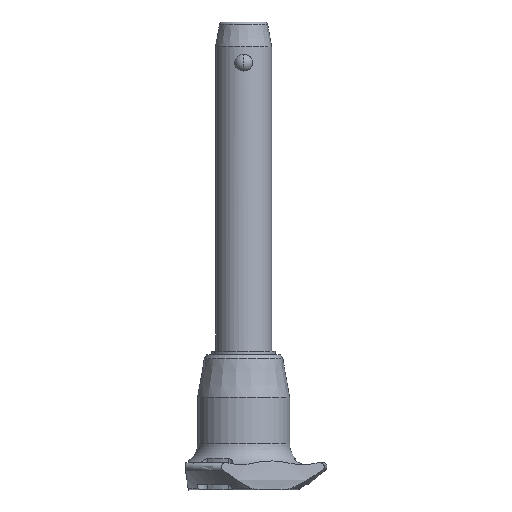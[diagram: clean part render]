
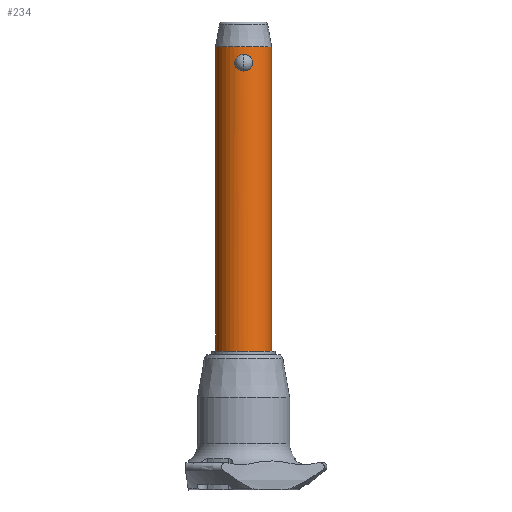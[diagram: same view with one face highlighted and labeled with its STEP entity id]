
A CAD part, front view. The second image highlights one B-rep face of the part: STEP entity #234.
In plain terms, the highlighted cylindrical face has radius 8 mm (diameter 16 mm), a partial arc.
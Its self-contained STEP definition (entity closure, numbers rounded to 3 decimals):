
#32 = LINE ( 'NONE', #2042, #651 ) ;
#53 = CARTESIAN_POINT ( 'NONE',  ( -2.529, -7.59, 2.716 ) ) ;
#77 = B_SPLINE_CURVE_WITH_KNOTS ( 'NONE', 3,
 ( #1384, #2269, #552, #1404, #1237, #82, #270, #2538, #2107, #117, #302, #2320, #103, #2502, #1456, #53, #1842, #1856, #2725, #2341, #2127, #1173, #2061, #1001, #722, #506, #1186, #2289, #1635, #2075 ),
 .UNSPECIFIED., .F., .F.,
 ( 4, 2, 2, 2, 2, 2, 2, 2, 2, 2, 2, 2, 2, 2, 4 ),
 ( 0., 0., 0.001, 0.001, 0.002, 0.002, 0.003, 0.003, 0.004, 0.004, 0.005, 0.006, 0.006, 0.007, 0.008 ),
 .UNSPECIFIED. ) ;
#82 = CARTESIAN_POINT ( 'NONE',  ( -1.107, -7.924, 4.548 ) ) ;
#103 = CARTESIAN_POINT ( 'NONE',  ( -2.276, -7.67, 3.482 ) ) ;
#111 = CARTESIAN_POINT ( 'NONE',  ( 0.164, -8., 4.775 ) ) ;
#117 = CARTESIAN_POINT ( 'NONE',  ( -1.896, -7.773, 4.001 ) ) ;
#143 = CIRCLE ( 'NONE', #693, 8. ) ;
#158 = CARTESIAN_POINT ( 'NONE',  ( 2.408, -7.629, 1.586 ) ) ;
#228 = EDGE_CURVE ( 'NONE', #458, #837, #499, .T. ) ;
#234 = ADVANCED_FACE ( 'NONE', ( #2313, #1011 ), #2768, .T. ) ;
#268 = CIRCLE ( 'NONE', #1215, 8. ) ;
#270 = CARTESIAN_POINT ( 'NONE',  ( -1.252, -7.903, 4.479 ) ) ;
#302 = CARTESIAN_POINT ( 'NONE',  ( -2.003, -7.746, 3.882 ) ) ;
#304 = ORIENTED_EDGE ( 'NONE', *, *, #2488, .F. ) ;
#364 = DIRECTION ( 'NONE',  ( 0., 0., 1. ) ) ;
#367 = CARTESIAN_POINT ( 'NONE',  ( 0., -8., 4.775 ) ) ;
#386 = CARTESIAN_POINT ( 'NONE',  ( 1.66, -7.827, 4.215 ) ) ;
#402 = EDGE_CURVE ( 'NONE', #1434, #2286, #268, .T. ) ;
#458 = VERTEX_POINT ( 'NONE', #2347 ) ;
#499 = B_SPLINE_CURVE_WITH_KNOTS ( 'NONE', 3,
 ( #2547, #785, #2147, #1693, #2530, #994, #1885, #1449, #2752, #592, #1044, #158, #1916, #579, #768, #1482, #2332, #1936, #1232, #1467, #1274, #386, #1430, #2580, #2786, #2162, #2350, #2119, #111, #367 ),
 .UNSPECIFIED., .F., .F.,
 ( 4, 2, 2, 2, 2, 2, 2, 2, 2, 2, 2, 2, 2, 2, 4 ),
 ( 0.008, 0.009, 0.009, 0.01, 0.01, 0.011, 0.011, 0.012, 0.012, 0.013, 0.014, 0.014, 0.015, 0.015, 0.016 ),
 .UNSPECIFIED. ) ;
#506 = CARTESIAN_POINT ( 'NONE',  ( -1.254, -7.902, 0.297 ) ) ;
#523 = EDGE_CURVE ( 'NONE', #2260, #1434, #2782, .T. ) ;
#543 = DIRECTION ( 'NONE',  ( 1., 0., 0. ) ) ;
#552 = CARTESIAN_POINT ( 'NONE',  ( -0.326, -7.995, 4.761 ) ) ;
#579 = CARTESIAN_POINT ( 'NONE',  ( 2.528, -7.59, 2.058 ) ) ;
#592 = CARTESIAN_POINT ( 'NONE',  ( 2.194, -7.694, 1.153 ) ) ;
#651 = VECTOR ( 'NONE', #1142, 1000. ) ;
#693 = AXIS2_PLACEMENT_3D ( 'NONE', #2054, #703, #946 ) ;
#703 = DIRECTION ( 'NONE',  ( 0., 0., -1. ) ) ;
#722 = CARTESIAN_POINT ( 'NONE',  ( -1.53, -7.854, 0.464 ) ) ;
#768 = CARTESIAN_POINT ( 'NONE',  ( 2.546, -7.584, 2.22 ) ) ;
#785 = CARTESIAN_POINT ( 'NONE',  ( 0.324, -8., 0. ) ) ;
#802 = CARTESIAN_POINT ( 'NONE',  ( 8., 0., -80. ) ) ;
#806 = DIRECTION ( 'NONE',  ( 1., 0., 0. ) ) ;
#837 = VERTEX_POINT ( 'NONE', #2090 ) ;
#946 = DIRECTION ( 'NONE',  ( 1., 0., 0. ) ) ;
#994 = CARTESIAN_POINT ( 'NONE',  ( 1.529, -7.854, 0.463 ) ) ;
#1001 = CARTESIAN_POINT ( 'NONE',  ( -1.659, -7.827, 0.559 ) ) ;
#1008 = CARTESIAN_POINT ( 'NONE',  ( 8., 0., -80. ) ) ;
#1011 = FACE_BOUND ( 'NONE', #1814, .T. ) ;
#1044 = CARTESIAN_POINT ( 'NONE',  ( 2.275, -7.67, 1.291 ) ) ;
#1133 = ORIENTED_EDGE ( 'NONE', *, *, #1527, .F. ) ;
#1142 = DIRECTION ( 'NONE',  ( 0., 0., 1. ) ) ;
#1173 = CARTESIAN_POINT ( 'NONE',  ( -2.211, -7.69, 1.148 ) ) ;
#1186 = CARTESIAN_POINT ( 'NONE',  ( -1.106, -7.925, 0.226 ) ) ;
#1215 = AXIS2_PLACEMENT_3D ( 'NONE', #2716, #1689, #543 ) ;
#1232 = CARTESIAN_POINT ( 'NONE',  ( 2.41, -7.629, 3.184 ) ) ;
#1237 = CARTESIAN_POINT ( 'NONE',  ( -0.803, -7.961, 4.661 ) ) ;
#1274 = CARTESIAN_POINT ( 'NONE',  ( 2.016, -7.746, 3.891 ) ) ;
#1384 = CARTESIAN_POINT ( 'NONE',  ( 0., -8., 4.775 ) ) ;
#1404 = CARTESIAN_POINT ( 'NONE',  ( -0.645, -7.976, 4.704 ) ) ;
#1430 = CARTESIAN_POINT ( 'NONE',  ( 1.529, -7.854, 4.312 ) ) ;
#1434 = VERTEX_POINT ( 'NONE', #2265 ) ;
#1449 = CARTESIAN_POINT ( 'NONE',  ( 1.894, -7.773, 0.773 ) ) ;
#1456 = CARTESIAN_POINT ( 'NONE',  ( -2.459, -7.613, 3.036 ) ) ;
#1467 = CARTESIAN_POINT ( 'NONE',  ( 2.211, -7.69, 3.626 ) ) ;
#1482 = CARTESIAN_POINT ( 'NONE',  ( 2.547, -7.584, 2.549 ) ) ;
#1527 = EDGE_CURVE ( 'NONE', #2260, #1672, #143, .T. ) ;
#1635 = CARTESIAN_POINT ( 'NONE',  ( -0.324, -8., 0. ) ) ;
#1672 = VERTEX_POINT ( 'NONE', #2731 ) ;
#1673 = DIRECTION ( 'NONE',  ( 0., 0., 1. ) ) ;
#1689 = DIRECTION ( 'NONE',  ( 0., 0., -1. ) ) ;
#1693 = CARTESIAN_POINT ( 'NONE',  ( 1.105, -7.925, 0.226 ) ) ;
#1814 = EDGE_LOOP ( 'NONE', ( #304, #2064 ) ) ;
#1842 = CARTESIAN_POINT ( 'NONE',  ( -2.546, -7.584, 2.553 ) ) ;
#1856 = CARTESIAN_POINT ( 'NONE',  ( -2.547, -7.584, 2.229 ) ) ;
#1866 = VECTOR ( 'NONE', #364, 1000. ) ;
#1885 = CARTESIAN_POINT ( 'NONE',  ( 1.657, -7.827, 0.558 ) ) ;
#1910 = ORIENTED_EDGE ( 'NONE', *, *, #523, .T. ) ;
#1916 = CARTESIAN_POINT ( 'NONE',  ( 2.46, -7.613, 1.742 ) ) ;
#1936 = CARTESIAN_POINT ( 'NONE',  ( 2.461, -7.612, 3.027 ) ) ;
#2027 = EDGE_LOOP ( 'NONE', ( #2779, #1133, #1910, #2089 ) ) ;
#2042 = CARTESIAN_POINT ( 'NONE',  ( -8., 0., -80. ) ) ;
#2054 = CARTESIAN_POINT ( 'NONE',  ( 0., 0., -80. ) ) ;
#2061 = CARTESIAN_POINT ( 'NONE',  ( -2.016, -7.746, 0.883 ) ) ;
#2064 = ORIENTED_EDGE ( 'NONE', *, *, #228, .F. ) ;
#2075 = CARTESIAN_POINT ( 'NONE',  ( 0., -8., 0. ) ) ;
#2089 = ORIENTED_EDGE ( 'NONE', *, *, #402, .T. ) ;
#2090 = CARTESIAN_POINT ( 'NONE',  ( 0., -8., 4.775 ) ) ;
#2107 = CARTESIAN_POINT ( 'NONE',  ( -1.658, -7.827, 4.216 ) ) ;
#2119 = CARTESIAN_POINT ( 'NONE',  ( 0.326, -7.995, 4.761 ) ) ;
#2127 = CARTESIAN_POINT ( 'NONE',  ( -2.411, -7.628, 1.592 ) ) ;
#2147 = CARTESIAN_POINT ( 'NONE',  ( 0.652, -7.979, 0.058 ) ) ;
#2162 = CARTESIAN_POINT ( 'NONE',  ( 0.804, -7.961, 4.661 ) ) ;
#2260 = VERTEX_POINT ( 'NONE', #1008 ) ;
#2265 = CARTESIAN_POINT ( 'NONE',  ( 8., 0., 7. ) ) ;
#2269 = CARTESIAN_POINT ( 'NONE',  ( -0.164, -8., 4.775 ) ) ;
#2271 = AXIS2_PLACEMENT_3D ( 'NONE', #2801, #1673, #806 ) ;
#2286 = VERTEX_POINT ( 'NONE', #2617 ) ;
#2289 = CARTESIAN_POINT ( 'NONE',  ( -0.652, -7.979, 0.058 ) ) ;
#2313 = FACE_OUTER_BOUND ( 'NONE', #2027, .T. ) ;
#2320 = CARTESIAN_POINT ( 'NONE',  ( -2.193, -7.694, 3.623 ) ) ;
#2332 = CARTESIAN_POINT ( 'NONE',  ( 2.529, -7.59, 2.71 ) ) ;
#2341 = CARTESIAN_POINT ( 'NONE',  ( -2.461, -7.612, 1.746 ) ) ;
#2347 = CARTESIAN_POINT ( 'NONE',  ( 0., -8., 0. ) ) ;
#2350 = CARTESIAN_POINT ( 'NONE',  ( 0.645, -7.976, 4.704 ) ) ;
#2367 = EDGE_CURVE ( 'NONE', #1672, #2286, #32, .T. ) ;
#2488 = EDGE_CURVE ( 'NONE', #837, #458, #77, .T. ) ;
#2502 = CARTESIAN_POINT ( 'NONE',  ( -2.408, -7.629, 3.189 ) ) ;
#2530 = CARTESIAN_POINT ( 'NONE',  ( 1.252, -7.903, 0.296 ) ) ;
#2538 = CARTESIAN_POINT ( 'NONE',  ( -1.527, -7.854, 4.313 ) ) ;
#2547 = CARTESIAN_POINT ( 'NONE',  ( 0., -8., 0. ) ) ;
#2580 = CARTESIAN_POINT ( 'NONE',  ( 1.253, -7.903, 4.478 ) ) ;
#2617 = CARTESIAN_POINT ( 'NONE',  ( -8., 0., 7. ) ) ;
#2716 = CARTESIAN_POINT ( 'NONE',  ( 0., 0., 7. ) ) ;
#2725 = CARTESIAN_POINT ( 'NONE',  ( -2.529, -7.59, 2.064 ) ) ;
#2731 = CARTESIAN_POINT ( 'NONE',  ( -8., 0., -80. ) ) ;
#2752 = CARTESIAN_POINT ( 'NONE',  ( 2.004, -7.746, 0.894 ) ) ;
#2768 = CYLINDRICAL_SURFACE ( 'NONE', #2271, 8. ) ;
#2779 = ORIENTED_EDGE ( 'NONE', *, *, #2367, .F. ) ;
#2782 = LINE ( 'NONE', #802, #1866 ) ;
#2786 = CARTESIAN_POINT ( 'NONE',  ( 1.108, -7.924, 4.548 ) ) ;
#2801 = CARTESIAN_POINT ( 'NONE',  ( 0., 0., -80. ) ) ;
